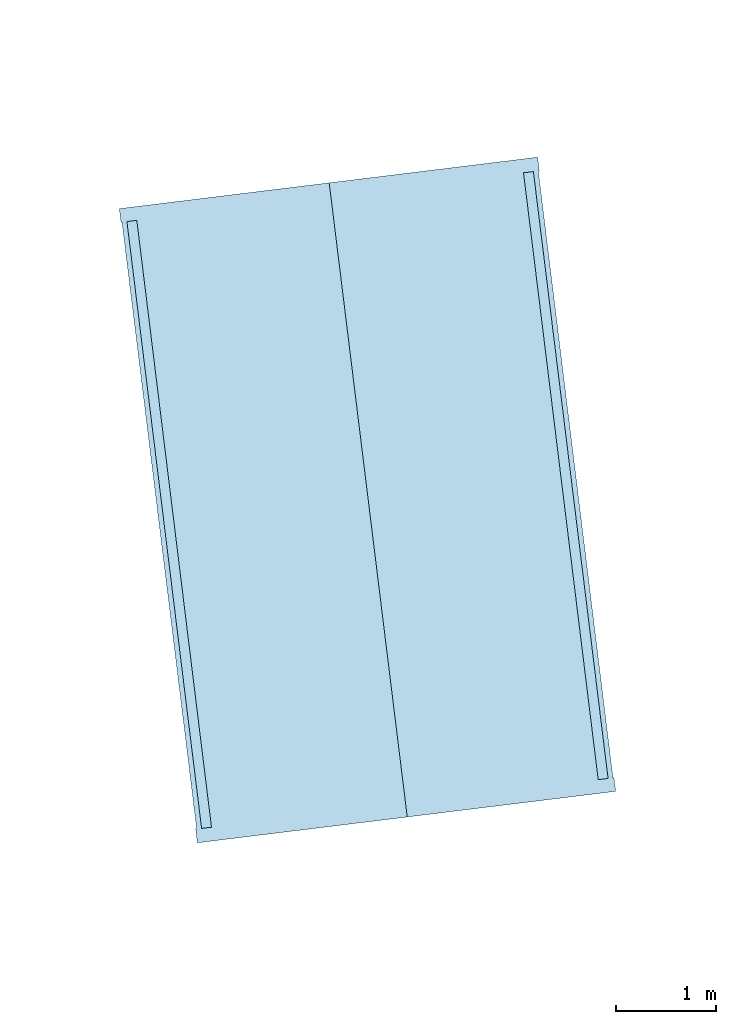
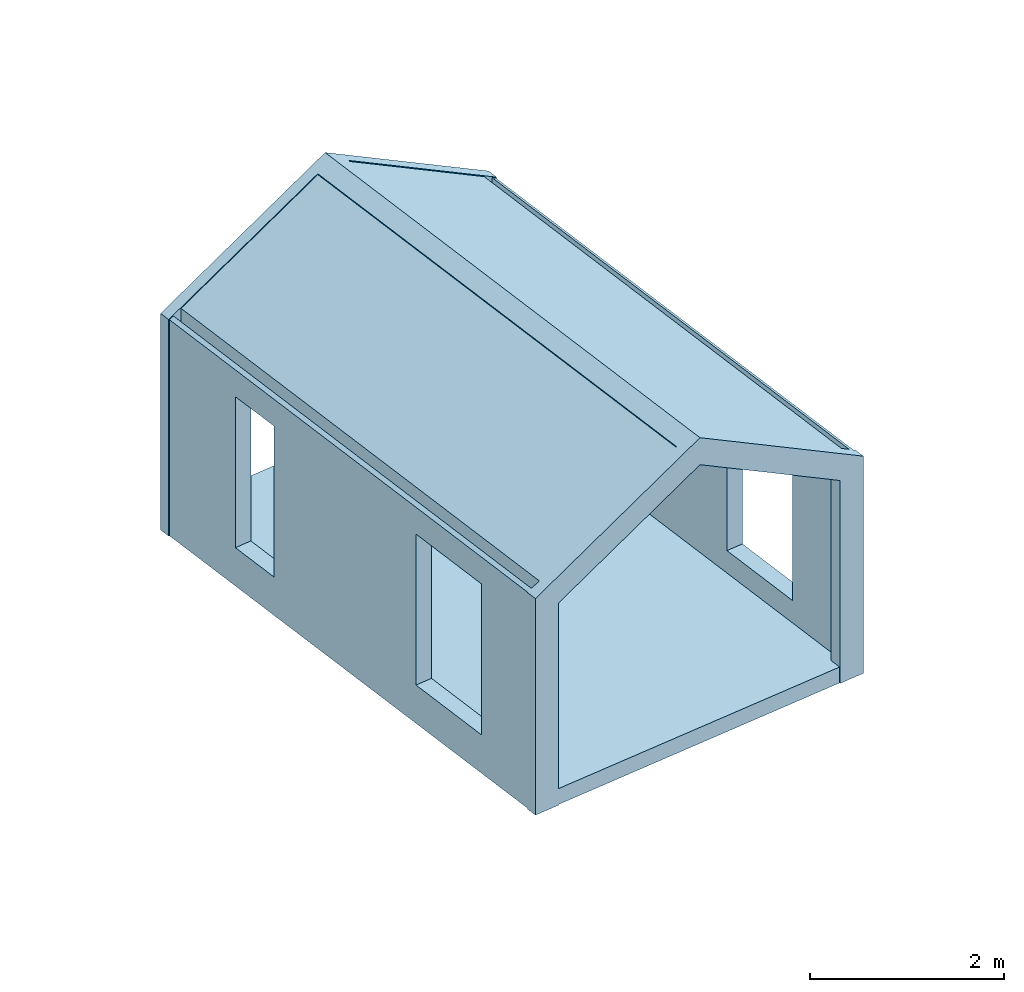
# One storey, part 2 of 3: 1 slab.
"""IFC2X3 building model written with IfcOpenShell, lengths in metres."""

from ifc_helpers import new_model, entity, si_unit, converted_unit, derived_unit, direction, frame, origin, place, context, subcontext, project, spatial, faceted_brep, material, type_object, element, save


model = new_model("IFC2X3")

# Units and contexts
model_context = context("Model", 3, precision=1e-05, world=origin(), true_north=direction((6.123031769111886e-17, 1.0)))
body_context = subcontext(model_context, "Body", "Model", "MODEL_VIEW")
ifc_project = project(units=[si_unit("LENGTHUNIT", "METRE"), si_unit("AREAUNIT", "SQUARE_METRE"), si_unit("VOLUMEUNIT", "CUBIC_METRE"), converted_unit("PLANEANGLEUNIT", "DEGREE", entity("IfcRatioMeasure", 0.017453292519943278), si_unit("PLANEANGLEUNIT", "RADIAN"), dimensions=[0, 0, 0, 0, 0, 0, 0]), si_unit("MASSUNIT", "GRAM", prefix="KILO"), derived_unit("MASSDENSITYUNIT", [(si_unit("MASSUNIT", "GRAM", prefix="KILO"), 1), (si_unit("LENGTHUNIT", "METRE"), -3)]), derived_unit("IONCONCENTRATIONUNIT", [(si_unit("MASSUNIT", "GRAM", prefix="KILO"), 1), (si_unit("LENGTHUNIT", "METRE"), -3)]), derived_unit("MOMENTOFINERTIAUNIT", [(si_unit("LENGTHUNIT", "METRE"), 4)]), si_unit("TIMEUNIT", "SECOND"), si_unit("FREQUENCYUNIT", "HERTZ"), si_unit("THERMODYNAMICTEMPERATUREUNIT", "DEGREE_CELSIUS"), derived_unit("THERMALTRANSMITTANCEUNIT", [(si_unit("MASSUNIT", "GRAM", prefix="KILO"), 1), (si_unit("THERMODYNAMICTEMPERATUREUNIT", "KELVIN"), -1), (si_unit("TIMEUNIT", "SECOND"), -3)]), derived_unit("THERMALCONDUCTANCEUNIT", [(si_unit("MASSUNIT", "GRAM", prefix="KILO"), 1), (si_unit("THERMODYNAMICTEMPERATUREUNIT", "KELVIN"), -1), (si_unit("TIMEUNIT", "SECOND"), -3), (si_unit("LENGTHUNIT", "METRE"), 1)]), derived_unit("VOLUMETRICFLOWRATEUNIT", [(si_unit("LENGTHUNIT", "METRE"), 3), (si_unit("TIMEUNIT", "SECOND"), -1)]), derived_unit("MASSFLOWRATEUNIT", [(si_unit("MASSUNIT", "GRAM", prefix="KILO"), 1), (si_unit("TIMEUNIT", "SECOND"), -1)]), derived_unit("ROTATIONALFREQUENCYUNIT", [(si_unit("TIMEUNIT", "SECOND"), -1)]), si_unit("ELECTRICCURRENTUNIT", "AMPERE"), si_unit("ELECTRICVOLTAGEUNIT", "VOLT"), si_unit("POWERUNIT", "WATT"), si_unit("FORCEUNIT", "NEWTON", prefix="KILO"), si_unit("ILLUMINANCEUNIT", "LUX"), si_unit("LUMINOUSFLUXUNIT", "LUMEN"), si_unit("LUMINOUSINTENSITYUNIT", "CANDELA"), derived_unit("USERDEFINED", [(si_unit("MASSUNIT", "GRAM", prefix="KILO"), -1), (si_unit("LENGTHUNIT", "METRE"), -2), (si_unit("TIMEUNIT", "SECOND"), 3), (si_unit("LUMINOUSFLUXUNIT", "LUMEN"), 1)]), derived_unit("USERDEFINED", [(si_unit("MASSUNIT", "GRAM", prefix="KILO"), 1), (si_unit("TIMEUNIT", "SECOND"), -3), (si_unit("LENGTHUNIT", "METRE"), 3), (si_unit("ELECTRICCURRENTUNIT", "AMPERE"), -2)]), derived_unit("SOUNDPOWERUNIT", [(si_unit("MASSUNIT", "GRAM", prefix="KILO"), 1), (si_unit("TIMEUNIT", "SECOND"), -3), (si_unit("LENGTHUNIT", "METRE"), 2)]), derived_unit("SOUNDPRESSUREUNIT", [(si_unit("MASSUNIT", "GRAM", prefix="KILO"), 1), (si_unit("LENGTHUNIT", "METRE"), -1), (si_unit("TIMEUNIT", "SECOND"), -2)]), derived_unit("LINEARVELOCITYUNIT", [(si_unit("LENGTHUNIT", "METRE"), 1), (si_unit("TIMEUNIT", "SECOND"), -1)]), si_unit("PRESSUREUNIT", "PASCAL"), derived_unit("USERDEFINED", [(si_unit("MASSUNIT", "GRAM", prefix="KILO"), 1), (si_unit("LENGTHUNIT", "METRE"), -2), (si_unit("TIMEUNIT", "SECOND"), -2)]), derived_unit("LINEARFORCEUNIT", [(si_unit("MASSUNIT", "GRAM", prefix="KILO"), 1), (si_unit("TIMEUNIT", "SECOND"), -2)]), derived_unit("PLANARFORCEUNIT", [(si_unit("MASSUNIT", "GRAM", prefix="KILO"), 1), (si_unit("LENGTHUNIT", "METRE"), -1), (si_unit("TIMEUNIT", "SECOND"), -2)]), derived_unit("SPECIFICHEATCAPACITYUNIT", [(si_unit("THERMODYNAMICTEMPERATUREUNIT", "KELVIN"), -1), (si_unit("LENGTHUNIT", "METRE"), 2), (si_unit("TIMEUNIT", "SECOND"), -2)]), derived_unit("HEATINGVALUEUNIT", [(si_unit("LENGTHUNIT", "METRE"), 2), (si_unit("TIMEUNIT", "SECOND"), -2)]), derived_unit("VAPORPERMEABILITYUNIT", [(si_unit("LENGTHUNIT", "METRE"), -1), (si_unit("TIMEUNIT", "SECOND"), 1)]), derived_unit("DYNAMICVISCOSITYUNIT", [(si_unit("MASSUNIT", "GRAM", prefix="KILO"), 1), (si_unit("TIMEUNIT", "SECOND"), -1), (si_unit("LENGTHUNIT", "METRE"), -1)]), derived_unit("THERMALEXPANSIONCOEFFICIENTUNIT", [(si_unit("THERMODYNAMICTEMPERATUREUNIT", "KELVIN"), -1)]), derived_unit("MODULUSOFELASTICITYUNIT", [(si_unit("MASSUNIT", "GRAM", prefix="KILO"), 1), (si_unit("LENGTHUNIT", "METRE"), -1), (si_unit("TIMEUNIT", "SECOND"), -2)]), derived_unit("ISOTHERMALMOISTURECAPACITYUNIT", [(si_unit("LENGTHUNIT", "METRE"), 3), (si_unit("MASSUNIT", "GRAM", prefix="KILO"), -1)]), derived_unit("MOISTUREDIFFUSIVITYUNIT", [(si_unit("TIMEUNIT", "SECOND"), -1), (si_unit("LENGTHUNIT", "METRE"), 2)])], contexts=[model_context])

# Site, building, storey
site_placement = place(None, origin())
site = spatial("IfcSite", under=ifc_project, at=site_placement, Name="Default", CompositionType="ELEMENT")
building_placement = place(site_placement, origin())
building = spatial("IfcBuilding", under=site, at=building_placement, Name="Projeto", CompositionType="ELEMENT")
storey_placement = place(building_placement, origin())
storey = spatial("IfcBuildingStorey", under=building, at=storey_placement, Name="Primeiro Pavimento", CompositionType="ELEMENT", Elevation=0.0)

# Slab
ifc_material = material(Name="Aço")
slab_type = type_object("IfcSlabType", Name="Pisos 1:Pisos 1", PredefinedType="FLOOR", material=ifc_material)
slab_placement = place(storey_placement, frame((7.598318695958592, 29.22198621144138, -2.780000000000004)))
element("IfcSlab", 1, at=slab_placement, inside=storey, type_object=slab_type, Name="Pisos 1:Pisos 1", ObjectType="Pisos 1:Pisos 1", PredefinedType="FLOOR", context=body_context, shape_type="Brep", body=[
    faceted_brep([(2.3229837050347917, 6.518229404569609, 3.737865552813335), (2.1257965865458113, 6.493960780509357, 3.843502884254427), (1.9286094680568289, 6.469692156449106, 3.7378655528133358), (1.9286094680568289, 6.469692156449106, 3.7494864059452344), (2.1257965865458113, 6.493960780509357, 3.855123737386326), (2.3229837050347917, 6.518229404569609, 3.7494864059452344), (3.0733545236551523, 0.4213258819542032, 3.737865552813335), (3.0733545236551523, 0.4213258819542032, 3.7494864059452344), (2.876167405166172, 0.3970572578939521, 3.8551237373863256), (2.6789802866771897, 0.3727886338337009, 3.7494864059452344), (2.678980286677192, 0.3727886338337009, 3.7378655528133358), (2.876167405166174, 0.3970572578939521, 3.8435028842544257)], [[[0, 1, 2, 3, 4, 5]], [[6, 7, 8, 9, 10, 11]], [[2, 1, 11, 10]], [[1, 0, 6, 11]], [[3, 2, 10, 9]], [[4, 3, 9, 8]], [[5, 4, 8, 7]], [[0, 5, 7, 6]]]),
    faceted_brep([(4.9706250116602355, 0.6548307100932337, 0.0), (4.987548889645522, 0.5173210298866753, 0.0), (4.68979548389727, 0.48067530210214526, 0.0), (4.670131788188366, 0.6404465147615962, 0.0), (4.759199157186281, 0.6514083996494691, 0.0), (4.777641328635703, 0.5015623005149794, 0.0), (4.976143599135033, 0.5259927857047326, 0.0), (4.960441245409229, 0.6535773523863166, 0.0), (0.7842185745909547, 0.0, 0.0), (0.7672946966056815, 0.13750968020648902, 0.0), (0.7774784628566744, 0.13876303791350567, 0.0), (0.7931808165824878, 0.011178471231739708, 0.0), (0.9916830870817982, 0.035608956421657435, 0.0), (0.9732409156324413, 0.1854550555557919, 0.0), (1.0623082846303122, 0.196416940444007, 0.0), (1.0819719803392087, 0.036645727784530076, 0.0), (4.970625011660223, 0.6548307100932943, 2.7330782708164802), (4.987548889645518, 0.5173210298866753, 2.733078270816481), (2.893091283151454, 0.25954757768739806, 3.85512373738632), (0.7842185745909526, 0.0, 2.7253557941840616), (1.0819719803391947, 0.0366457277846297, 2.5450976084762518), (2.8930912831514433, 0.2595475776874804, 3.515352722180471), (4.6897954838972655, 0.48067530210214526, 2.5528200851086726), (4.670131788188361, 0.6404465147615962, 2.5528200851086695), (2.8734275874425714, 0.41931879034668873, 3.5153527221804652), (1.062308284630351, 0.1964169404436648, 2.5450976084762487), (0.9732409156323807, 0.18545505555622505, 2.5990184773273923), (2.873427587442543, 0.41931879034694, 3.616988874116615), (4.759199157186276, 0.6514083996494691, 2.606740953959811), (4.777641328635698, 0.5015623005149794, 2.6067409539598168), (2.8918697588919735, 0.2694726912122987, 3.616988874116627), (0.9916830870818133, 0.03560895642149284, 2.599018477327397), (0.7931808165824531, 0.011178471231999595, 2.7191906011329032), (2.891869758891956, 0.269472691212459, 3.843502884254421), (4.976143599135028, 0.5259927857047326, 2.7269130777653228), (4.960441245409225, 0.6535773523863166, 2.7269130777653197), (0.7672946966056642, 0.1375096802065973, 2.7253557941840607), (0.77747846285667, 0.13876303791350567, 2.7191906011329), (2.876167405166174, 0.3970572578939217, 3.843502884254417), (2.876167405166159, 0.397057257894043, 3.8551237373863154)], [[[0, 1, 2, 3, 4, 5, 6, 7]], [[8, 9, 10, 11, 12, 13, 14, 15]], [[0, 16, 17, 1]], [[2, 1, 17, 18, 19, 8, 15, 20, 21, 22]], [[3, 2, 22, 23]], [[4, 3, 23, 24, 25, 14, 13, 26, 27, 28]], [[5, 4, 28, 29]], [[6, 5, 29, 30, 31, 12, 11, 32, 33, 34]], [[7, 6, 34, 35]], [[36, 9, 8, 19]], [[25, 20, 15, 14]], [[31, 26, 13, 12]], [[37, 32, 11, 10]], [[0, 7, 35, 38, 37, 10, 9, 36, 39, 16]], [[17, 16, 39, 18]], [[23, 22, 21, 24]], [[29, 28, 27, 30]], [[35, 34, 33, 38]], [[18, 39, 36, 19]], [[24, 21, 20, 25]], [[30, 27, 26, 31]], [[38, 33, 32, 37]]]),
    faceted_brep([(4.194368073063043, 6.878065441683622, 2.7269130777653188), (4.194368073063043, 6.878065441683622, 0.0), (0.011405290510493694, 6.363251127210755, 0.0), (0.011405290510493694, 6.363251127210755, 2.7191906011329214), (2.1100942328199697, 6.621545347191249, 3.8435028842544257), (3.995865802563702, 6.853634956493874, 2.6067409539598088), (2.1100942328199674, 6.621545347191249, 3.6169888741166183), (0.20990756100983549, 6.387681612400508, 2.599018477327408), (0.20990756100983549, 6.387681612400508, 0.20000000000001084), (3.995865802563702, 6.853634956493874, 0.20000000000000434), (4.976143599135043, 0.525992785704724, 2.7269130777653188), (2.891869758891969, 0.2694726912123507, 3.843502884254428), (0.7931808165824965, 0.011178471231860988, 2.7191906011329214), (0.7931808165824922, 0.011178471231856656, 0.0), (4.976143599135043, 0.525992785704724, 0.0), (4.777641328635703, 0.5015623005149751, 2.606740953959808), (4.777641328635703, 0.5015623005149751, 0.20000000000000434), (0.9916830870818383, 0.035608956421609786, 0.20000000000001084), (0.9916830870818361, 0.035608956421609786, 2.5990184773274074), (2.8918697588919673, 0.2694726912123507, 3.6169888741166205), (4.347970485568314, 5.630017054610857, 2.381997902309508), (4.347970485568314, 5.630017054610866, 0.4819979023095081), (4.428591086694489, 4.974959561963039, 0.48199790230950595), (4.428591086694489, 4.9749595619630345, 2.3819979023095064), (4.725892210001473, 2.5593322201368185, 0.48199790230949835), (4.862702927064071, 1.4477195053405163, 0.48199790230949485), (4.862702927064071, 1.447719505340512, 2.3819979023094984), (4.725892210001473, 2.5593322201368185, 2.3819979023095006), (0.1650077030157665, 5.115202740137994, 0.4819979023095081), (0.1650077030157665, 5.115202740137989, 2.381997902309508), (0.24562830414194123, 4.460145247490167, 2.3819979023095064), (0.24562830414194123, 4.460145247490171, 0.4819979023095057), (0.6797401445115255, 0.9329051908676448, 0.48199790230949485), (0.5429294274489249, 2.0445179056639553, 0.48199790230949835), (0.542929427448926, 2.044517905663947, 2.381997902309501), (0.6797401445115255, 0.9329051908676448, 2.3819979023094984), (0.827104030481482, 0.1448706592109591, 2.7457760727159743), (0.0767332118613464, 6.241774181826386, 2.7457760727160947), (0.17598434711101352, 6.253989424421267, 2.79894701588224), (0.9263551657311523, 0.15708590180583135, 2.798947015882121), (4.061193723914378, 6.732158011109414, 2.8066694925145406), (4.160444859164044, 6.7443732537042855, 2.7534985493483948), (4.910815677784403, 0.6474697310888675, 2.753498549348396), (4.811564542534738, 0.6352544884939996, 2.8066694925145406), (0.3635099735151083, 5.139633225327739, 2.381997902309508), (0.3635099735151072, 5.139633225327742, 0.4819979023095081), (0.444130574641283, 4.48457573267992, 0.48199790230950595), (0.444130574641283, 4.484575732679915, 2.3819979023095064), (0.7414316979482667, 2.0689483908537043, 0.48199790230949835), (0.8782424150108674, 0.9573356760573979, 0.48199790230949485), (0.8782424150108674, 0.9573356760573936, 2.3819979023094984), (0.7414316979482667, 2.0689483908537, 2.381997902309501), (4.149468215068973, 5.605586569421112, 0.4819979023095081), (4.149468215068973, 5.605586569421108, 2.381997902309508), (4.230088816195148, 4.950529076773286, 2.3819979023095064), (4.230088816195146, 4.9505290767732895, 0.4819979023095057), (4.664200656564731, 1.4232890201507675, 0.4819979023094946), (4.52738993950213, 2.534901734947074, 0.48199790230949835), (4.527389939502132, 2.534901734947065, 2.381997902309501), (4.664200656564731, 1.4232890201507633, 2.3819979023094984), (0.07673321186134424, 6.241774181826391, 2.601410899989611), (0.827104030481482, 0.14487065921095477, 2.601410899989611), (0.9263551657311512, 0.15708590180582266, 2.601410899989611), (0.17598434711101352, 6.253989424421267, 2.601410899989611), (4.061193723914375, 6.732158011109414, 2.601410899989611), (4.160444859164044, 6.744373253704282, 2.601410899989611), (4.811564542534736, 0.6352544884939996, 2.601410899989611), (4.910815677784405, 0.6474697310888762, 2.601410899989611)], [[[0, 1, 2, 3, 4], [5, 6, 7, 8, 9]], [[10, 11, 12, 13, 14], [15, 16, 17, 18, 19]], [[1, 0, 10, 14], [20, 21, 22, 23], [24, 25, 26, 27]], [[2, 1, 14, 13]], [[3, 2, 13, 12], [28, 29, 30, 31], [32, 33, 34, 35]], [[4, 3, 12, 11], [36, 37, 38, 39]], [[0, 4, 11, 10], [40, 41, 42, 43]], [[44, 29, 28, 45]], [[45, 28, 31, 46]], [[46, 31, 30, 47]], [[29, 44, 47, 30]], [[48, 33, 32, 49]], [[49, 32, 35, 50]], [[50, 35, 34, 51]], [[33, 48, 51, 34]], [[6, 5, 15, 19]], [[7, 6, 19, 18]], [[8, 7, 18, 17], [44, 45, 46, 47], [48, 49, 50, 51]], [[9, 8, 17, 16]], [[5, 9, 16, 15], [52, 53, 54, 55], [56, 57, 58, 59]], [[60, 61, 62, 63]], [[64, 65, 41, 40]], [[66, 64, 40, 43]], [[67, 66, 43, 42]], [[65, 67, 42, 41]], [[61, 60, 37, 36]], [[62, 61, 36, 39]], [[63, 62, 39, 38]], [[60, 63, 38, 37]], [[65, 64, 66, 67]], [[57, 24, 27, 58]], [[26, 59, 58, 27]], [[25, 56, 59, 26]], [[24, 57, 56, 25]], [[53, 20, 23, 54]], [[22, 55, 54, 23]], [[21, 52, 55, 22]], [[20, 53, 52, 21]]]),
    faceted_brep([(0.016923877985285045, 6.234413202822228, 0.0), (0.0, 6.371922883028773, 0.0), (0.29775340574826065, 6.408568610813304, 0.0), (0.3174171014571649, 6.248797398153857, 0.0), (0.22834973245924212, 6.2378355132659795, 0.0), (0.20990756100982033, 6.387681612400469, 0.0), (0.011405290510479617, 6.363251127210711, 0.0), (0.027107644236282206, 6.235666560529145, 0.0), (4.203330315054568, 6.88924391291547, 0.0), (4.220254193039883, 6.7517342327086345, 0.0), (4.210070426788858, 6.750480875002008, 0.0), (4.194368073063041, 6.878065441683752, 0.0), (3.9958658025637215, 6.853634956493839, 0.0), (4.014307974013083, 6.7037888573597, 0.0), (3.9252406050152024, 6.692826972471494, 0.0), (3.9055769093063, 6.852598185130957, 0.0), (0.016923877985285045, 6.234413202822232, 2.725355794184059), (0.0, 6.371922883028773, 2.725355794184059), (2.108872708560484, 6.631470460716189, 3.8551237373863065), (4.2033303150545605, 6.889243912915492, 2.7330782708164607), (3.9055769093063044, 6.852598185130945, 2.5528200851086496), (2.108872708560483, 6.6314704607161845, 3.515352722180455), (0.29775340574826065, 6.408568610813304, 2.545097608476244), (0.3174171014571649, 6.248797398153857, 2.5450976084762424), (2.1285364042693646, 6.471699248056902, 3.5153527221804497), (3.925240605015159, 6.692826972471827, 2.5528200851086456), (4.014307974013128, 6.703788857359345, 2.6067409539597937), (2.128536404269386, 6.471699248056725, 3.6169888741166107), (0.22834973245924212, 6.2378355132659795, 2.5990184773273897), (0.20990756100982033, 6.387681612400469, 2.5990184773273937), (2.110094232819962, 6.621545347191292, 3.6169888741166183), (3.9958658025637, 6.853634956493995, 2.606740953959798), (4.194368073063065, 6.878065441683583, 2.726913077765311), (2.1100942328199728, 6.621545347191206, 3.843502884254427), (0.011405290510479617, 6.363251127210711, 2.7191906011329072), (0.027107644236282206, 6.235666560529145, 2.7191906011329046), (2.125796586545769, 6.493960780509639, 3.8551237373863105), (2.1257965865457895, 6.493960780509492, 3.843502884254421), (4.220254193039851, 6.751734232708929, 2.7330782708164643), (4.210070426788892, 6.750480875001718, 2.7269130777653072)], [[[0, 1, 2, 3, 4, 5, 6, 7]], [[8, 9, 10, 11, 12, 13, 14, 15]], [[0, 16, 17, 1]], [[2, 1, 17, 18, 19, 8, 15, 20, 21, 22]], [[3, 2, 22, 23]], [[4, 3, 23, 24, 25, 14, 13, 26, 27, 28]], [[5, 4, 28, 29]], [[6, 5, 29, 30, 31, 12, 11, 32, 33, 34]], [[7, 6, 34, 35]], [[17, 16, 36, 18]], [[23, 22, 21, 24]], [[29, 28, 27, 30]], [[35, 34, 33, 37]], [[18, 36, 38, 19]], [[24, 21, 20, 25]], [[30, 27, 26, 31]], [[37, 33, 32, 39]], [[19, 38, 9, 8]], [[25, 20, 15, 14]], [[31, 26, 13, 12]], [[39, 32, 11, 10]], [[0, 7, 35, 37, 39, 10, 9, 38, 36, 16]]]),
])

save(model, "model.ifc")
